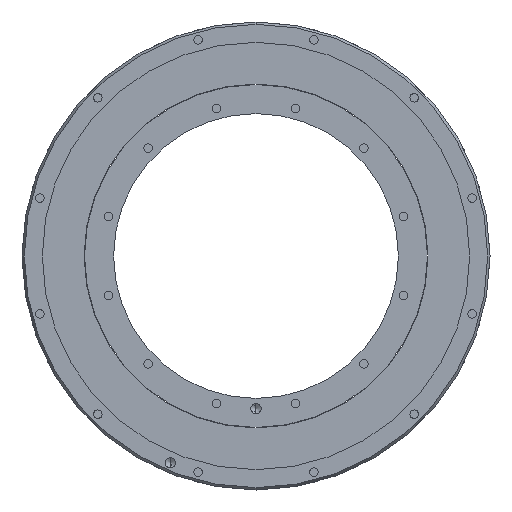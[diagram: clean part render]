
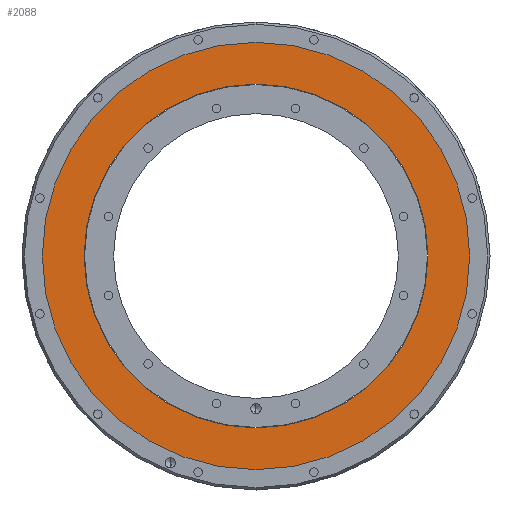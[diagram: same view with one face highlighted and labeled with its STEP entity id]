
A CAD part, front view. The second image highlights one B-rep face of the part: STEP entity #2088.
In plain terms, the highlighted planar face has unit normal (0, -1, 0).
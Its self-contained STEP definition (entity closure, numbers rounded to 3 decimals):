
#122 = DIRECTION ( 'NONE',  ( 0., 0., -1. ) ) ;
#262 = CARTESIAN_POINT ( 'NONE',  ( 0., 1., -105. ) ) ;
#556 = CARTESIAN_POINT ( 'NONE',  ( 0., 1., 84.5 ) ) ;
#699 = ORIENTED_EDGE ( 'NONE', *, *, #3792, .T. ) ;
#936 = CIRCLE ( 'NONE', #5375, 84.5 ) ;
#946 = FACE_OUTER_BOUND ( 'NONE', #3804, .T. ) ;
#1029 = VERTEX_POINT ( 'NONE', #262 ) ;
#1104 = FACE_BOUND ( 'NONE', #3432, .T. ) ;
#1158 = DIRECTION ( 'NONE',  ( 0., 0., -1. ) ) ;
#1586 = DIRECTION ( 'NONE',  ( 0., -1., 0. ) ) ;
#1618 = AXIS2_PLACEMENT_3D ( 'NONE', #6762, #5669, #2449 ) ;
#1891 = DIRECTION ( 'NONE',  ( 0., -1., 0. ) ) ;
#2078 = CIRCLE ( 'NONE', #1618, 105. ) ;
#2088 = ADVANCED_FACE ( 'NONE', ( #946, #1104 ), #4361, .T. ) ;
#2236 = CARTESIAN_POINT ( 'NONE',  ( 0., 1., 0. ) ) ;
#2416 = EDGE_CURVE ( 'NONE', #5597, #5655, #4876, .T. ) ;
#2437 = DIRECTION ( 'NONE',  ( 0., 0., -1. ) ) ;
#2449 = DIRECTION ( 'NONE',  ( 0., 0., -1. ) ) ;
#2675 = EDGE_CURVE ( 'NONE', #5655, #5597, #936, .T. ) ;
#3061 = ORIENTED_EDGE ( 'NONE', *, *, #2416, .F. ) ;
#3067 = CARTESIAN_POINT ( 'NONE',  ( 0., 1., -84.5 ) ) ;
#3274 = DIRECTION ( 'NONE',  ( 0., -1., 0. ) ) ;
#3320 = DIRECTION ( 'NONE',  ( 0., 0., -1. ) ) ;
#3421 = CIRCLE ( 'NONE', #5830, 105. ) ;
#3432 = EDGE_LOOP ( 'NONE', ( #3061, #3748 ) ) ;
#3748 = ORIENTED_EDGE ( 'NONE', *, *, #2675, .F. ) ;
#3792 = EDGE_CURVE ( 'NONE', #1029, #4157, #3421, .T. ) ;
#3804 = EDGE_LOOP ( 'NONE', ( #699, #5278 ) ) ;
#4157 = VERTEX_POINT ( 'NONE', #4555 ) ;
#4354 = AXIS2_PLACEMENT_3D ( 'NONE', #5952, #3274, #3320 ) ;
#4361 = PLANE ( 'NONE',  #4354 ) ;
#4555 = CARTESIAN_POINT ( 'NONE',  ( 0., 1., 105. ) ) ;
#4851 = DIRECTION ( 'NONE',  ( 0., -1., 0. ) ) ;
#4876 = CIRCLE ( 'NONE', #5863, 84.5 ) ;
#5278 = ORIENTED_EDGE ( 'NONE', *, *, #6076, .T. ) ;
#5375 = AXIS2_PLACEMENT_3D ( 'NONE', #6267, #1891, #2437 ) ;
#5597 = VERTEX_POINT ( 'NONE', #3067 ) ;
#5655 = VERTEX_POINT ( 'NONE', #556 ) ;
#5669 = DIRECTION ( 'NONE',  ( 0., -1., 0. ) ) ;
#5830 = AXIS2_PLACEMENT_3D ( 'NONE', #2236, #4851, #1158 ) ;
#5863 = AXIS2_PLACEMENT_3D ( 'NONE', #6408, #1586, #122 ) ;
#5952 = CARTESIAN_POINT ( 'NONE',  ( 84.5, 1., 0. ) ) ;
#6076 = EDGE_CURVE ( 'NONE', #4157, #1029, #2078, .T. ) ;
#6267 = CARTESIAN_POINT ( 'NONE',  ( 0., 1., 0. ) ) ;
#6408 = CARTESIAN_POINT ( 'NONE',  ( 0., 1., 0. ) ) ;
#6762 = CARTESIAN_POINT ( 'NONE',  ( 0., 1., 0. ) ) ;
